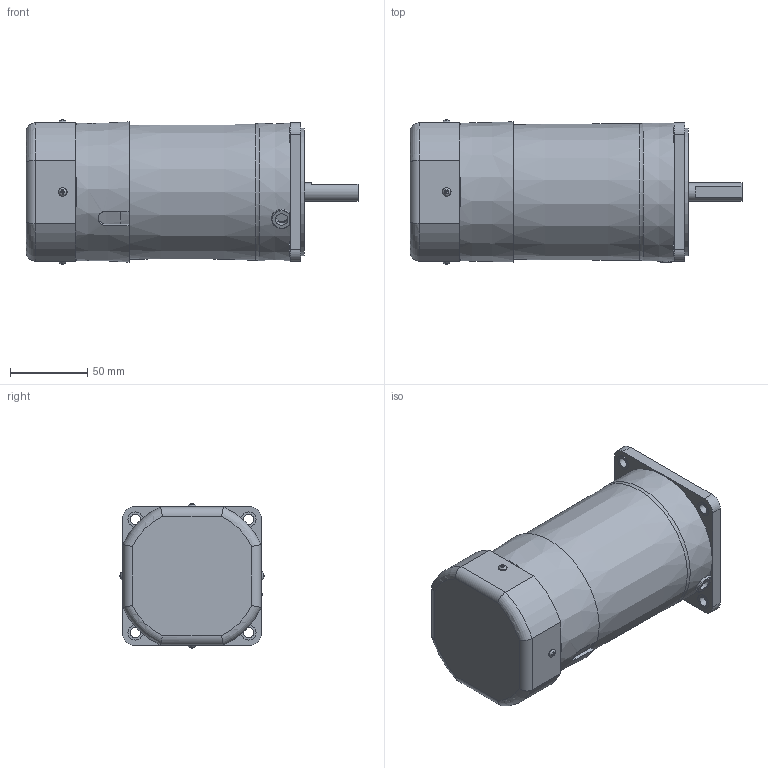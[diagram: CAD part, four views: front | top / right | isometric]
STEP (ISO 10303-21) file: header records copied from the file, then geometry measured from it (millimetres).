
FILE_DESCRIPTION((''),'2;1');
FILE_NAME('D:\김성묵\업무폴더\개발 파일\프로젝트 개발 AB등급\AC표준형 개발자료\90각 이하 표준형 개발\도면작성 자료\3D 도면\홈페이지용 3D 파일\90W MOTOR\BLACK TYPE\S9I90D-E.stp','2015-03-26T13:45:42',('smkim'),(''),'Autodesk Inventor 2012','Autodesk Inventor 2012','');
FILE_SCHEMA(('AUTOMOTIVE_DESIGN { 1 0 10303 214 1 1 1 1 }'));
Length unit declared in the file: millimetre
Products named in the file (7): S9I90D-E; S9I90GㅁCE; 6_CORD BUSH; FAN COVER; 552300620; S9I60D; 60W 전자BK COVER
Assembly tree (9 placements, depth 2):
  S9I90D-E
    S9I90GㅁCE
    6_CORD BUSH
    FAN COVER
    552300620  x4
    S9I60D
    60W 전자BK COVER
Bounding box: 215.3 x 93.49 x 93.49 mm (x, y, z)
Volume: 1266295.2 mm3; surface area: 121203.5 mm2
Topology: 9 solids, 10 shells, 243 faces, 566 edges, 367 vertices
Faces by surface type: plane 150, cylinder 61, cone 14, torus 14, bspline 4
Full cylindrical faces by diameter (mm): 3 x8, 3.5 x4, 5.6 x4, 6.5 x4, 8 x1, 9.5 x4, 10 x1, 12 x1, 28 x1, 34 x1, 40 x1, 60 x1, 66 x1, 80 x1, 83 x1, 86 x2, 86.3 x1
Entity records: 5440 total; most frequent: CARTESIAN_POINT 1285, DIRECTION 844, ORIENTED_EDGE 724, EDGE_CURVE 362, AXIS2_PLACEMENT_3D 332, VERTEX_POINT 263, EDGE_LOOP 263, FACE_OUTER_BOUND 180
